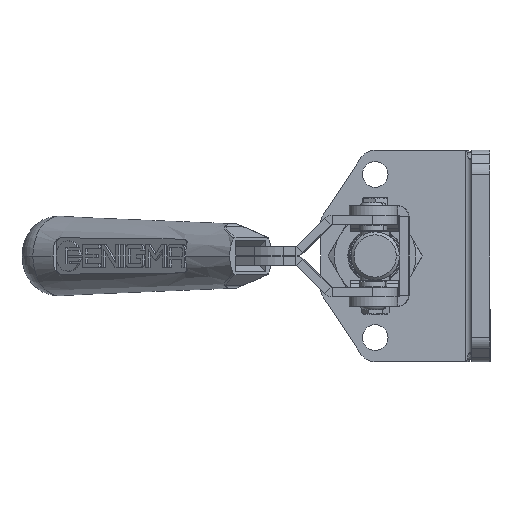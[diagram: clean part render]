
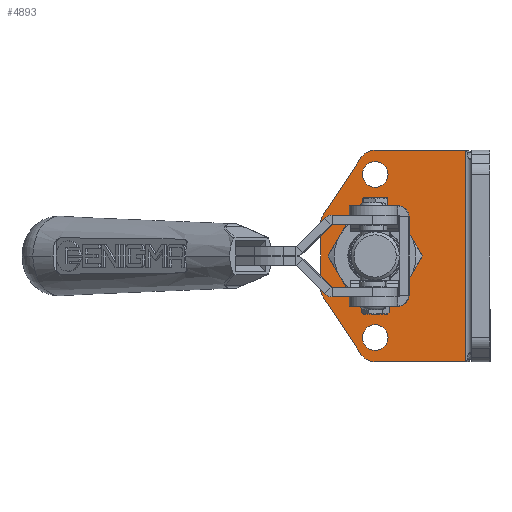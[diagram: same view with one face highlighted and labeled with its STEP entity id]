
A CAD part, left-side view. The second image highlights one B-rep face of the part: STEP entity #4893.
In plain terms, the highlighted planar face has unit normal (-1, 0, 0) as drawn and (1, 0, 0) by its records, which use the part's own axes.
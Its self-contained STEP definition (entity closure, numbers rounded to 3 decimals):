
#19 = FACE_BOUND ( 'NONE', #3160, .T. ) ;
#22 = CIRCLE ( 'NONE', #21759, 5. ) ;
#85 = DIRECTION ( 'NONE',  ( 1., 0., 0. ) ) ;
#104 = DIRECTION ( 'NONE',  ( 0., 1., 0. ) ) ;
#758 = CARTESIAN_POINT ( 'NONE',  ( 35.85, 32.32, 35. ) ) ;
#1393 = ORIENTED_EDGE ( 'NONE', *, *, #12439, .T. ) ;
#1617 = ORIENTED_EDGE ( 'NONE', *, *, #14612, .T. ) ;
#2363 = PLANE ( 'NONE',  #35266 ) ;
#2599 = DIRECTION ( 'NONE',  ( 0., -1., 0. ) ) ;
#2720 = EDGE_CURVE ( 'NONE', #29501, #27571, #10633, .T. ) ;
#3160 = EDGE_LOOP ( 'NONE', ( #33830, #18758 ) ) ;
#3557 = ORIENTED_EDGE ( 'NONE', *, *, #2720, .F. ) ;
#3984 = CIRCLE ( 'NONE', #28542, 5. ) ;
#4437 = DIRECTION ( 'NONE',  ( 1., 0., 0. ) ) ;
#4549 = EDGE_CURVE ( 'NONE', #31049, #34638, #20983, .T. ) ;
#4614 = ORIENTED_EDGE ( 'NONE', *, *, #5476, .F. ) ;
#4852 = EDGE_CURVE ( 'NONE', #27571, #29501, #5026, .T. ) ;
#4893 = ADVANCED_FACE ( 'NONE', ( #26864, #24013, #5236, #19 ), #2363, .F. ) ;
#5026 = CIRCLE ( 'NONE', #13578, 4.25 ) ;
#5189 = CARTESIAN_POINT ( 'NONE',  ( 35.85, -35.004, 35. ) ) ;
#5236 = FACE_BOUND ( 'NONE', #28961, .T. ) ;
#5261 = ORIENTED_EDGE ( 'NONE', *, *, #30051, .T. ) ;
#5476 = EDGE_CURVE ( 'NONE', #5608, #14803, #17623, .T. ) ;
#5480 = VERTEX_POINT ( 'NONE', #28338 ) ;
#5608 = VERTEX_POINT ( 'NONE', #12607 ) ;
#6014 = DIRECTION ( 'NONE',  ( 0., -1., 0. ) ) ;
#6298 = CARTESIAN_POINT ( 'NONE',  ( 35.85, 36.48, 32.774 ) ) ;
#7138 = CARTESIAN_POINT ( 'NONE',  ( 35.85, 31.996, -27. ) ) ;
#7664 = CARTESIAN_POINT ( 'NONE',  ( 35.85, 34.996, -35. ) ) ;
#8113 = DIRECTION ( 'NONE',  ( -1., 0., 0. ) ) ;
#8627 = CARTESIAN_POINT ( 'NONE',  ( 35.85, 31.996, 31.25 ) ) ;
#8770 = DIRECTION ( 'NONE',  ( 0., -0.555, 0.832 ) ) ;
#9067 = ORIENTED_EDGE ( 'NONE', *, *, #18721, .T. ) ;
#9181 = EDGE_CURVE ( 'NONE', #22198, #14070, #21055, .T. ) ;
#10609 = DIRECTION ( 'NONE',  ( 1., 0., 0. ) ) ;
#10633 = CIRCLE ( 'NONE', #20901, 4.25 ) ;
#10720 = DIRECTION ( 'NONE',  ( 1., 0., 0. ) ) ;
#10840 = AXIS2_PLACEMENT_3D ( 'NONE', #7138, #4437, #34838 ) ;
#10956 = CARTESIAN_POINT ( 'NONE',  ( 35.85, 49.156, 13.76 ) ) ;
#10981 = ORIENTED_EDGE ( 'NONE', *, *, #9181, .T. ) ;
#11023 = DIRECTION ( 'NONE',  ( 0., 0., 1. ) ) ;
#11232 = DIRECTION ( 'NONE',  ( 1., 0., 0. ) ) ;
#11463 = CARTESIAN_POINT ( 'NONE',  ( 35.85, 49.996, -12.5 ) ) ;
#11843 = CIRCLE ( 'NONE', #31802, 12.1 ) ;
#11868 = CARTESIAN_POINT ( 'NONE',  ( 35.85, 32.32, 30. ) ) ;
#11989 = VECTOR ( 'NONE', #21645, 1000. ) ;
#12439 = EDGE_CURVE ( 'NONE', #5480, #18475, #22, .T. ) ;
#12607 = CARTESIAN_POINT ( 'NONE',  ( 35.85, 2., -35. ) ) ;
#12701 = CARTESIAN_POINT ( 'NONE',  ( 35.85, 32.32, -30. ) ) ;
#13426 = DIRECTION ( 'NONE',  ( 1., 0., 0. ) ) ;
#13566 = CARTESIAN_POINT ( 'NONE',  ( 35.85, 2., 35. ) ) ;
#13578 = AXIS2_PLACEMENT_3D ( 'NONE', #22036, #10609, #30068 ) ;
#13723 = LINE ( 'NONE', #7664, #17913 ) ;
#13856 = EDGE_CURVE ( 'NONE', #16819, #24029, #20658, .T. ) ;
#14070 = VERTEX_POINT ( 'NONE', #18533 ) ;
#14424 = CARTESIAN_POINT ( 'NONE',  ( 35.85, 31.996, -27. ) ) ;
#14612 = EDGE_CURVE ( 'NONE', #18475, #30660, #33247, .T. ) ;
#14714 = DIRECTION ( 'NONE',  ( 0., -1., 0. ) ) ;
#14782 = DIRECTION ( 'NONE',  ( 1., 0., 0. ) ) ;
#14803 = VERTEX_POINT ( 'NONE', #13566 ) ;
#15759 = EDGE_CURVE ( 'NONE', #34638, #31049, #11843, .T. ) ;
#16150 = DIRECTION ( 'NONE',  ( 0., 0., -1. ) ) ;
#16440 = ORIENTED_EDGE ( 'NONE', *, *, #13856, .F. ) ;
#16819 = VERTEX_POINT ( 'NONE', #33867 ) ;
#17623 = LINE ( 'NONE', #25480, #23862 ) ;
#17913 = VECTOR ( 'NONE', #104, 1000. ) ;
#17978 = CARTESIAN_POINT ( 'NONE',  ( 35.85, 44.996, -10.986 ) ) ;
#18222 = ORIENTED_EDGE ( 'NONE', *, *, #4852, .F. ) ;
#18395 = CARTESIAN_POINT ( 'NONE',  ( 35.85, 31.996, -12.1 ) ) ;
#18475 = VERTEX_POINT ( 'NONE', #10956 ) ;
#18533 = CARTESIAN_POINT ( 'NONE',  ( 35.85, 36.48, -32.774 ) ) ;
#18598 = LINE ( 'NONE', #30191, #11989 ) ;
#18612 = CARTESIAN_POINT ( 'NONE',  ( 35.85, 31.996, 12.1 ) ) ;
#18691 = CARTESIAN_POINT ( 'NONE',  ( 35.85, 49.996, -10.986 ) ) ;
#18721 = EDGE_CURVE ( 'NONE', #24288, #14803, #29680, .T. ) ;
#18758 = ORIENTED_EDGE ( 'NONE', *, *, #4549, .F. ) ;
#19309 = VERTEX_POINT ( 'NONE', #19447 ) ;
#19447 = CARTESIAN_POINT ( 'NONE',  ( 35.85, 49.156, -13.76 ) ) ;
#19969 = EDGE_CURVE ( 'NONE', #30660, #24288, #3984, .T. ) ;
#20107 = DIRECTION ( 'NONE',  ( 1., 0., 0. ) ) ;
#20658 = CIRCLE ( 'NONE', #25771, 4.25 ) ;
#20682 = VECTOR ( 'NONE', #8770, 1000. ) ;
#20901 = AXIS2_PLACEMENT_3D ( 'NONE', #24813, #10720, #35192 ) ;
#20983 = CIRCLE ( 'NONE', #23839, 12.1 ) ;
#21016 = EDGE_CURVE ( 'NONE', #24029, #16819, #29661, .T. ) ;
#21055 = CIRCLE ( 'NONE', #25602, 5. ) ;
#21268 = ORIENTED_EDGE ( 'NONE', *, *, #22200, .T. ) ;
#21282 = CARTESIAN_POINT ( 'NONE',  ( 35.85, 32.32, -35. ) ) ;
#21645 = DIRECTION ( 'NONE',  ( 0., 0., 1. ) ) ;
#21667 = DIRECTION ( 'NONE',  ( 0., -1., 0. ) ) ;
#21759 = AXIS2_PLACEMENT_3D ( 'NONE', #27642, #33187, #6014 ) ;
#21867 = CARTESIAN_POINT ( 'NONE',  ( 35.85, 31.996, 0. ) ) ;
#22036 = CARTESIAN_POINT ( 'NONE',  ( 35.85, 31.996, 27. ) ) ;
#22198 = VERTEX_POINT ( 'NONE', #21282 ) ;
#22200 = EDGE_CURVE ( 'NONE', #29185, #5480, #18598, .T. ) ;
#22206 = DIRECTION ( 'NONE',  ( 0., 0.555, 0.832 ) ) ;
#22319 = DIRECTION ( 'NONE',  ( 0., 0., 1. ) ) ;
#23496 = ORIENTED_EDGE ( 'NONE', *, *, #21016, .F. ) ;
#23839 = AXIS2_PLACEMENT_3D ( 'NONE', #29794, #85, #11023 ) ;
#23862 = VECTOR ( 'NONE', #25305, 1000. ) ;
#24013 = FACE_BOUND ( 'NONE', #27943, .T. ) ;
#24029 = VERTEX_POINT ( 'NONE', #33874 ) ;
#24198 = EDGE_LOOP ( 'NONE', ( #34998, #10981, #29456, #5261, #21268, #1393, #1617, #26011, #9067, #4614 ) ) ;
#24288 = VERTEX_POINT ( 'NONE', #758 ) ;
#24813 = CARTESIAN_POINT ( 'NONE',  ( 35.85, 31.996, 27. ) ) ;
#25305 = DIRECTION ( 'NONE',  ( 0., 0., 1. ) ) ;
#25480 = CARTESIAN_POINT ( 'NONE',  ( 35.85, 2., 0. ) ) ;
#25511 = CARTESIAN_POINT ( 'NONE',  ( 35.85, 31.996, 0. ) ) ;
#25602 = AXIS2_PLACEMENT_3D ( 'NONE', #12701, #13426, #21667 ) ;
#25771 = AXIS2_PLACEMENT_3D ( 'NONE', #14424, #11232, #22319 ) ;
#26011 = ORIENTED_EDGE ( 'NONE', *, *, #19969, .T. ) ;
#26014 = VECTOR ( 'NONE', #22206, 1000. ) ;
#26681 = EDGE_CURVE ( 'NONE', #5608, #22198, #13723, .T. ) ;
#26864 = FACE_OUTER_BOUND ( 'NONE', #24198, .T. ) ;
#27571 = VERTEX_POINT ( 'NONE', #35229 ) ;
#27642 = CARTESIAN_POINT ( 'NONE',  ( 35.85, 44.996, 10.986 ) ) ;
#27878 = CARTESIAN_POINT ( 'NONE',  ( 35.85, 34.996, 35. ) ) ;
#27943 = EDGE_LOOP ( 'NONE', ( #3557, #18222 ) ) ;
#28338 = CARTESIAN_POINT ( 'NONE',  ( 35.85, 49.996, 10.986 ) ) ;
#28542 = AXIS2_PLACEMENT_3D ( 'NONE', #11868, #20107, #14714 ) ;
#28800 = CIRCLE ( 'NONE', #32321, 5. ) ;
#28877 = DIRECTION ( 'NONE',  ( 1., 0., 0. ) ) ;
#28961 = EDGE_LOOP ( 'NONE', ( #23496, #16440 ) ) ;
#29185 = VERTEX_POINT ( 'NONE', #18691 ) ;
#29456 = ORIENTED_EDGE ( 'NONE', *, *, #32401, .T. ) ;
#29501 = VERTEX_POINT ( 'NONE', #8627 ) ;
#29661 = CIRCLE ( 'NONE', #10840, 4.25 ) ;
#29680 = LINE ( 'NONE', #5189, #34241 ) ;
#29794 = CARTESIAN_POINT ( 'NONE',  ( 35.85, 31.996, 0. ) ) ;
#30051 = EDGE_CURVE ( 'NONE', #19309, #29185, #28800, .T. ) ;
#30068 = DIRECTION ( 'NONE',  ( 0., 0., 1. ) ) ;
#30191 = CARTESIAN_POINT ( 'NONE',  ( 35.85, 49.996, 12.5 ) ) ;
#30351 = DIRECTION ( 'NONE',  ( 0., 0., 1. ) ) ;
#30395 = LINE ( 'NONE', #11463, #26014 ) ;
#30660 = VERTEX_POINT ( 'NONE', #6298 ) ;
#31049 = VERTEX_POINT ( 'NONE', #18395 ) ;
#31802 = AXIS2_PLACEMENT_3D ( 'NONE', #25511, #14782, #30351 ) ;
#32321 = AXIS2_PLACEMENT_3D ( 'NONE', #17978, #28877, #2599 ) ;
#32401 = EDGE_CURVE ( 'NONE', #14070, #19309, #30395, .T. ) ;
#33187 = DIRECTION ( 'NONE',  ( 1., 0., 0. ) ) ;
#33247 = LINE ( 'NONE', #27878, #20682 ) ;
#33830 = ORIENTED_EDGE ( 'NONE', *, *, #15759, .F. ) ;
#33867 = CARTESIAN_POINT ( 'NONE',  ( 35.85, 31.996, -31.25 ) ) ;
#33874 = CARTESIAN_POINT ( 'NONE',  ( 35.85, 31.996, -22.75 ) ) ;
#34241 = VECTOR ( 'NONE', #34667, 1000. ) ;
#34638 = VERTEX_POINT ( 'NONE', #18612 ) ;
#34667 = DIRECTION ( 'NONE',  ( 0., -1., 0. ) ) ;
#34838 = DIRECTION ( 'NONE',  ( 0., 0., 1. ) ) ;
#34998 = ORIENTED_EDGE ( 'NONE', *, *, #26681, .T. ) ;
#35192 = DIRECTION ( 'NONE',  ( 0., 0., 1. ) ) ;
#35229 = CARTESIAN_POINT ( 'NONE',  ( 35.85, 31.996, 22.75 ) ) ;
#35266 = AXIS2_PLACEMENT_3D ( 'NONE', #21867, #8113, #16150 ) ;
